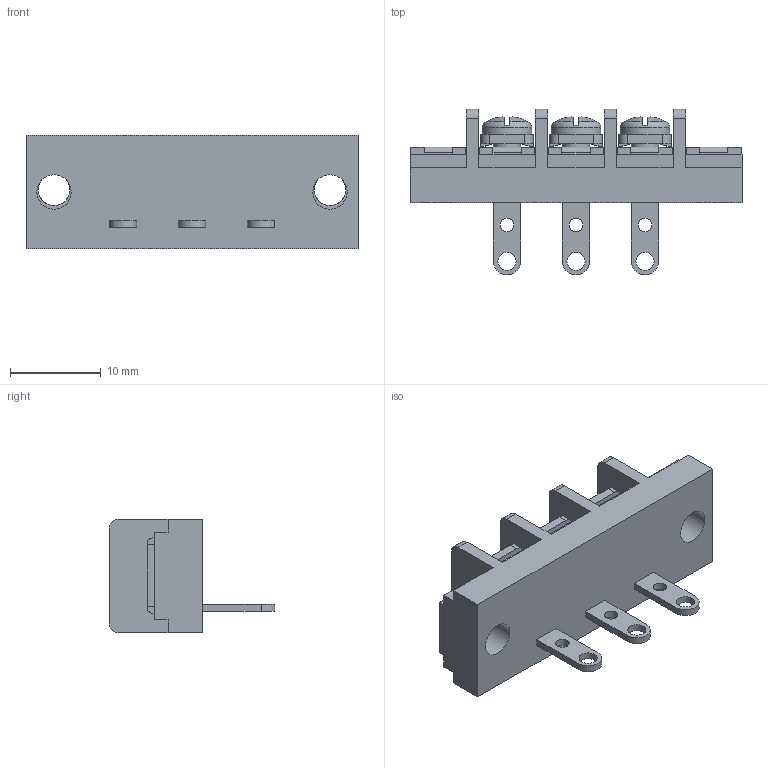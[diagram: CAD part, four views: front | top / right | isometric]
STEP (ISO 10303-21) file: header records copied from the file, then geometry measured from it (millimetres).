
FILE_DESCRIPTION(/* description */ ('Alibre Inc.'),/* implementation_level */ '2;1');
FILE_NAME(/* name */ 'export0',/* time_stamp */ '2015-10-26T17:58:16+09:00',/* author */ (''),/* organization */ (''),/* preprocessor_version */ 'ST-DEVELOPER v14',/* originating_system */ 'Alibre',/* authorisation */ '');
FILE_SCHEMA (('CONFIG_CONTROL_DESIGN'));
Length unit declared in the file: centimetre
Products named in the file (1): ID_1
Bounding box: 36.68 x 18.3 x 12.5 mm (x, y, z)
Volume: 2980.3 mm3; surface area: 2878 mm2
Topology: 1 solids, 17 shells, 736 faces, 1973 edges, 1305 vertices
Faces by surface type: plane 556, bspline 104, cylinder 52, cone 12, torus 6, sphere 6
Full cylindrical faces by diameter (mm): 1.5 x3, 2 x3, 3 x3, 3.5 x2, 3.8 x2, 5.5 x3
Entity records: 21950 total; most frequent: CARTESIAN_POINT 5092, ORIENTED_EDGE 3870, DIRECTION 2495, EDGE_CURVE 1935, VECTOR 1436, LINE 1436, VERTEX_POINT 1289, EDGE_LOOP 816
